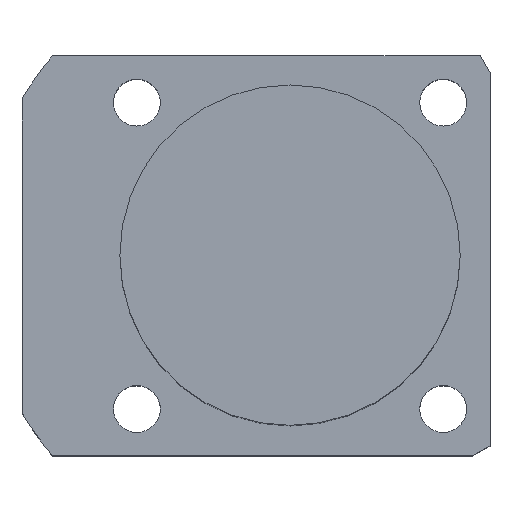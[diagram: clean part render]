
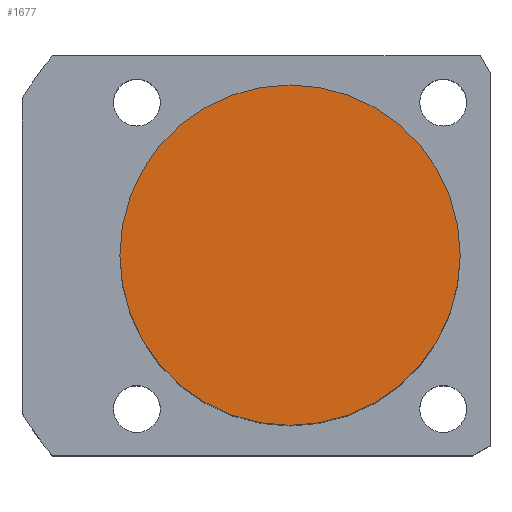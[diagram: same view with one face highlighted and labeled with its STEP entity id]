
A CAD part, top view. The second image highlights one B-rep face of the part: STEP entity #1677.
In plain terms, the highlighted planar face has unit normal (0, 0, 1).
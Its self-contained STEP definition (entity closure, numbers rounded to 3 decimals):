
#322 = VERTEX_POINT ( 'NONE', #816 ) ;
#341 = AXIS2_PLACEMENT_3D ( 'NONE', #1116, #2092, #1792 ) ;
#364 = CIRCLE ( 'NONE', #886, 20. ) ;
#468 = DIRECTION ( 'NONE',  ( 0., 0., 1. ) ) ;
#484 = ORIENTED_EDGE ( 'NONE', *, *, #2086, .T. ) ;
#596 = DIRECTION ( 'NONE',  ( 1., 0., 0. ) ) ;
#816 = CARTESIAN_POINT ( 'NONE',  ( -20., 0., 56.5 ) ) ;
#829 = EDGE_LOOP ( 'NONE', ( #484, #1131 ) ) ;
#886 = AXIS2_PLACEMENT_3D ( 'NONE', #1944, #468, #968 ) ;
#915 = EDGE_CURVE ( 'NONE', #1402, #322, #364, .T. ) ;
#942 = FACE_OUTER_BOUND ( 'NONE', #829, .T. ) ;
#968 = DIRECTION ( 'NONE',  ( 1., 0., 0. ) ) ;
#1109 = PLANE ( 'NONE',  #1586 ) ;
#1116 = CARTESIAN_POINT ( 'NONE',  ( 0., 0., 56.5 ) ) ;
#1131 = ORIENTED_EDGE ( 'NONE', *, *, #915, .T. ) ;
#1181 = CARTESIAN_POINT ( 'NONE',  ( 20., 0., 56.5 ) ) ;
#1402 = VERTEX_POINT ( 'NONE', #1181 ) ;
#1485 = CIRCLE ( 'NONE', #341, 20. ) ;
#1586 = AXIS2_PLACEMENT_3D ( 'NONE', #1596, #2093, #596 ) ;
#1596 = CARTESIAN_POINT ( 'NONE',  ( 0., 0., 56.5 ) ) ;
#1677 = ADVANCED_FACE ( 'NONE', ( #942 ), #1109, .T. ) ;
#1792 = DIRECTION ( 'NONE',  ( 1., 0., 0. ) ) ;
#1944 = CARTESIAN_POINT ( 'NONE',  ( 0., 0., 56.5 ) ) ;
#2086 = EDGE_CURVE ( 'NONE', #322, #1402, #1485, .T. ) ;
#2092 = DIRECTION ( 'NONE',  ( 0., 0., 1. ) ) ;
#2093 = DIRECTION ( 'NONE',  ( 0., 0., 1. ) ) ;
